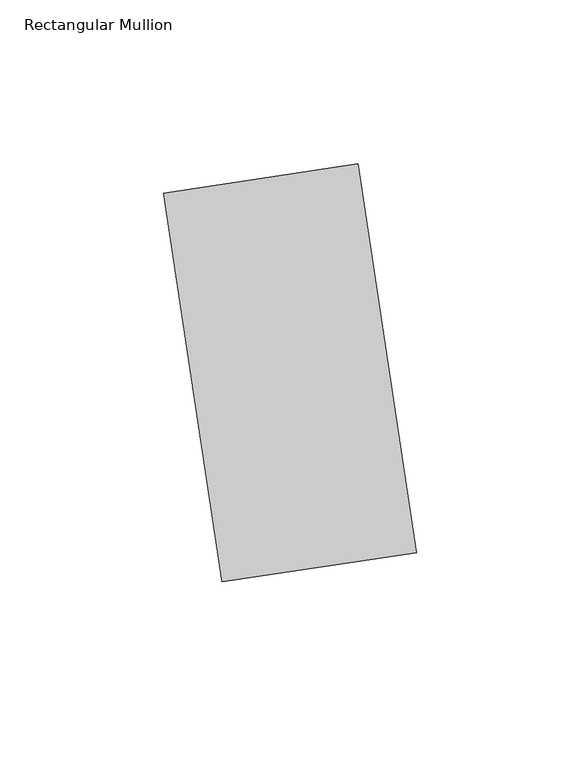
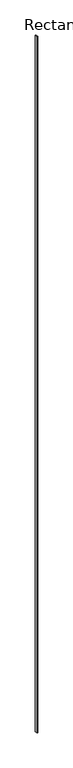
"""IFC4 building model written with IfcOpenShell, lengths in millimetres: member geometry, Rectangular Mullion : TERÇA 6x12 cm."""

from ifc_helpers import new_model, si_unit, frame, origin, place, context, project, spatial, polyline, outline, extrude, source, transform, mapped, element, save


def rectangular_mullion_1419afb8(model_context):
    return source(origin(), model_context, "Body", "SweptSolid", [
        extrude(outline(polyline([(29.6680906, 4.4502136), (-29.6680906, -4.4502136), (-47.4689449, 114.2221488), (11.8672362, 123.1225759), (29.6680906, 4.4502136)])), frame((0.0, 0.0, -38953.7758792), z_axis=(0.0, 0.0, 1.0), x_axis=(1.0, 0.0, 0.0)), (0.0, 0.0, 1.0), 38953.7758792),
    ])


if __name__ == "__main__":
    model = new_model("IFC4")
    model_context = context("Model", 3, world=origin())
    ifc_project = project(units=[si_unit("LENGTHUNIT", "METRE", prefix="MILLI")], contexts=[model_context])
    site = spatial("IfcSite", under=ifc_project)
    building = spatial("IfcBuilding", under=site)
    placement = place(None, origin())
    rectangular_mullion_shape = rectangular_mullion_1419afb8(model_context)
    element("IfcMember", 1, ObjectType="Rectangular Mullion : TERÇA 6x12 cm", at=placement, inside=building, context=model_context, shape_type="MappedRepresentation", body=[
        mapped(rectangular_mullion_shape, transform((0.0, 0.0, 0.0), x_axis=(1.0, 0.0, 0.0), y_axis=(0.0, 1.0, 0.0), z_axis=(0.0, 0.0, 1.0))),
    ])
    save(model, "model.ifc")
